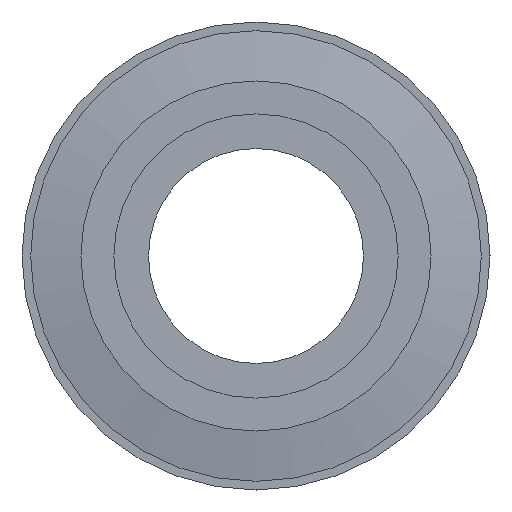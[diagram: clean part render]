
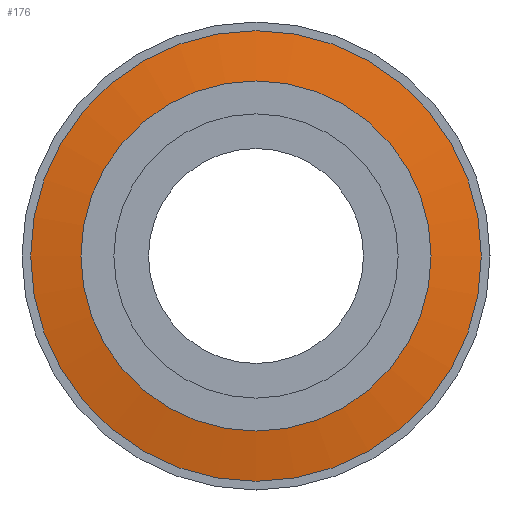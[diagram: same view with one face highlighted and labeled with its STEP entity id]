
A CAD part, front view. The second image highlights one B-rep face of the part: STEP entity #176.
In plain terms, the highlighted conical face has half-angle 80 degrees and reference radius 5.775 mm.
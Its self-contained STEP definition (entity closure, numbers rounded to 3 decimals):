
#142=CARTESIAN_POINT('',(-5.05,-3.25,0.0));
#143=VERTEX_POINT('',#142);
#144=CARTESIAN_POINT('',(0.0,-3.25,0.0));
#145=DIRECTION('',(0.0,1.0,0.0));
#146=DIRECTION('',(-1.0,0.0,0.0));
#147=AXIS2_PLACEMENT_3D('',#144,#145,#146);
#148=CIRCLE('',#147,5.05);
#149=EDGE_CURVE('',#143,#143,#148,.T.);
#157=CARTESIAN_POINT('',(0.0,-3.122,0.0));
#158=DIRECTION('',(0.0,1.0,0.0));
#159=DIRECTION('',(-1.0,0.0,0.0));
#160=AXIS2_PLACEMENT_3D('',#157,#158,#159);
#161=CONICAL_SURFACE('',#160,5.775,80.);
#162=CARTESIAN_POINT('',(-6.5,-2.994,0.0));
#163=VERTEX_POINT('',#162);
#164=CARTESIAN_POINT('',(0.0,-2.994,0.0));
#165=DIRECTION('',(0.0,1.0,0.0));
#166=DIRECTION('',(-1.0,0.0,0.0));
#167=AXIS2_PLACEMENT_3D('',#164,#165,#166);
#168=CIRCLE('',#167,6.5);
#169=EDGE_CURVE('',#163,#163,#168,.T.);
#170=ORIENTED_EDGE('',*,*,#169,.F.);
#171=EDGE_LOOP('',(#170));
#172=FACE_OUTER_BOUND('',#171,.T.);
#173=ORIENTED_EDGE('',*,*,#149,.T.);
#174=EDGE_LOOP('',(#173));
#175=FACE_BOUND('',#174,.T.);
#176=ADVANCED_FACE('',(#172,#175),#161,.T.);
